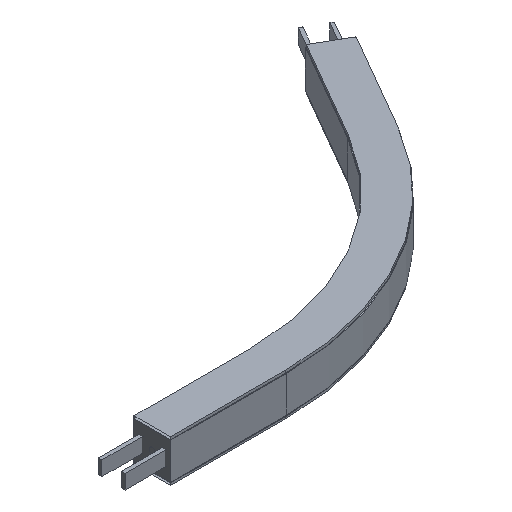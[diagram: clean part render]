
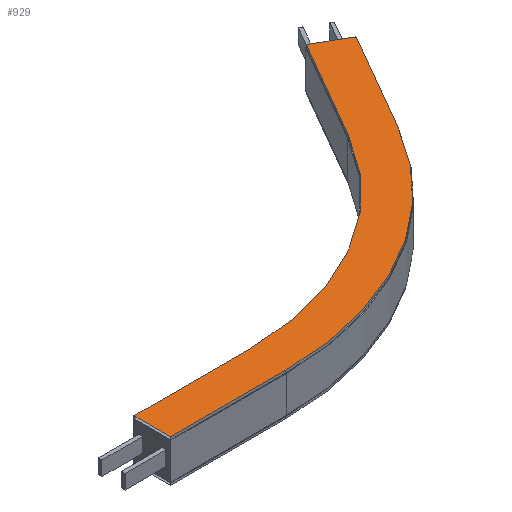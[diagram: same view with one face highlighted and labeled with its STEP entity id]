
A CAD part, isometric view. The second image highlights one B-rep face of the part: STEP entity #929.
In plain terms, the highlighted planar face has unit normal (0, 0, -1).
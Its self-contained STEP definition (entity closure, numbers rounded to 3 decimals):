
#61=CIRCLE('',#1011,468.5);
#62=CIRCLE('',#1013,531.5);
#119=FACE_OUTER_BOUND('',#171,.T.);
#171=EDGE_LOOP('',(#794,#795,#796,#797,#798,#799,#800,#801));
#253=LINE('',#1463,#363);
#255=LINE('',#1469,#365);
#262=LINE('',#1490,#372);
#267=LINE('',#1499,#377);
#268=LINE('',#1501,#378);
#269=LINE('',#1502,#379);
#363=VECTOR('',#1198,10.);
#365=VECTOR('',#1202,10.);
#372=VECTOR('',#1223,10.);
#377=VECTOR('',#1232,10.);
#378=VECTOR('',#1235,10.);
#379=VECTOR('',#1236,10.);
#453=VERTEX_POINT('',#1457);
#455=VERTEX_POINT('',#1461);
#456=VERTEX_POINT('',#1465);
#458=VERTEX_POINT('',#1468);
#461=VERTEX_POINT('',#1475);
#462=VERTEX_POINT('',#1480);
#464=VERTEX_POINT('',#1486);
#467=VERTEX_POINT('',#1497);
#565=EDGE_CURVE('',#453,#455,#253,.T.);
#567=EDGE_CURVE('',#456,#458,#255,.T.);
#572=EDGE_CURVE('',#461,#453,#61,.T.);
#574=EDGE_CURVE('',#462,#456,#62,.T.);
#578=EDGE_CURVE('',#464,#461,#262,.T.);
#583=EDGE_CURVE('',#467,#462,#267,.T.);
#584=EDGE_CURVE('',#467,#464,#268,.T.);
#585=EDGE_CURVE('',#455,#458,#269,.T.);
#794=ORIENTED_EDGE('',*,*,#584,.T.);
#795=ORIENTED_EDGE('',*,*,#578,.T.);
#796=ORIENTED_EDGE('',*,*,#572,.T.);
#797=ORIENTED_EDGE('',*,*,#565,.T.);
#798=ORIENTED_EDGE('',*,*,#585,.T.);
#799=ORIENTED_EDGE('',*,*,#567,.F.);
#800=ORIENTED_EDGE('',*,*,#574,.F.);
#801=ORIENTED_EDGE('',*,*,#583,.F.);
#879=PLANE('',#1018);
#929=ADVANCED_FACE('',(#119),#879,.F.);
#1011=AXIS2_PLACEMENT_3D('',#1478,#1210,#1211);
#1013=AXIS2_PLACEMENT_3D('',#1483,#1215,#1216);
#1018=AXIS2_PLACEMENT_3D('',#1500,#1233,#1234);
#1198=DIRECTION('',(0.5,0.866,0.));
#1202=DIRECTION('',(0.5,0.866,0.));
#1210=DIRECTION('center_axis',(0.,0.,
1.));
#1211=DIRECTION('ref_axis',(0.,-1.,0.));
#1215=DIRECTION('center_axis',(0.,0.,
1.));
#1216=DIRECTION('ref_axis',(0.,-1.,0.));
#1223=DIRECTION('',(1.,0.,0.));
#1232=DIRECTION('',(1.,0.,0.));
#1233=DIRECTION('center_axis',(0.,0.,1.));
#1234=DIRECTION('ref_axis',(0.,-1.,0.));
#1235=DIRECTION('',(0.,1.,0.));
#1236=DIRECTION('',(0.866,-0.5,0.));
#1457=CARTESIAN_POINT('',(605.733,265.75,36.5));
#1461=CARTESIAN_POINT('',(705.733,438.955,36.5));
#1463=CARTESIAN_POINT('',(605.733,265.75,36.5));
#1465=CARTESIAN_POINT('',(660.293,234.25,36.5));
#1468=CARTESIAN_POINT('',(760.293,407.455,36.5));
#1469=CARTESIAN_POINT('',(660.293,234.25,36.5));
#1475=CARTESIAN_POINT('',(200.,31.5,36.5));
#1478=CARTESIAN_POINT('Origin',(200.,500.,36.5));
#1480=CARTESIAN_POINT('',(200.,-31.5,36.5));
#1483=CARTESIAN_POINT('Origin',(200.,500.,36.5));
#1486=CARTESIAN_POINT('',(0.,31.5,36.5));
#1490=CARTESIAN_POINT('',(0.,31.5,36.5));
#1497=CARTESIAN_POINT('',(0.,-31.5,36.5));
#1499=CARTESIAN_POINT('',(0.,-31.5,36.5));
#1500=CARTESIAN_POINT('Origin',(0.,31.5,36.5));
#1501=CARTESIAN_POINT('',(0.,-31.5,36.5));
#1502=CARTESIAN_POINT('',(760.293,407.455,36.5));
